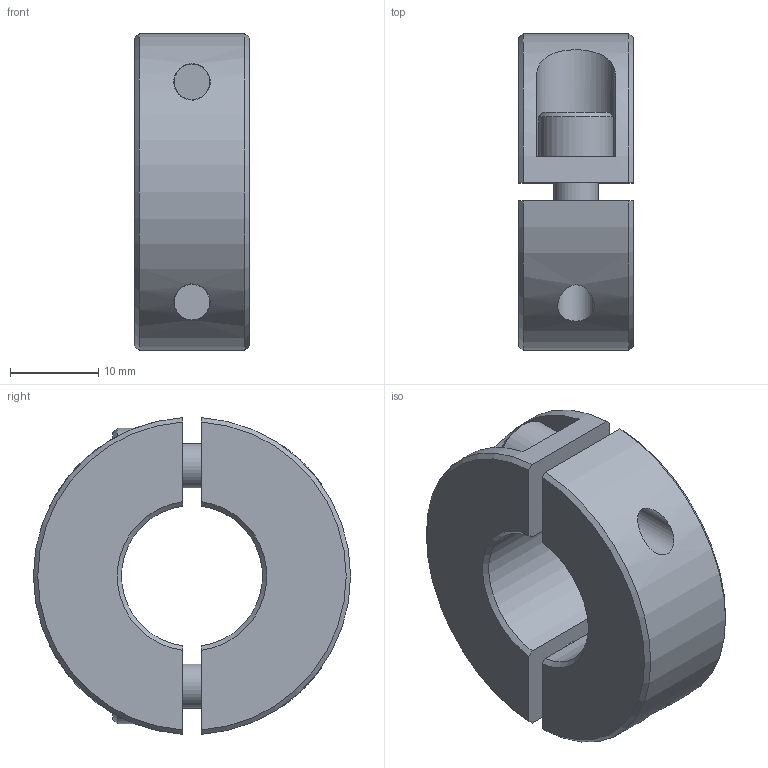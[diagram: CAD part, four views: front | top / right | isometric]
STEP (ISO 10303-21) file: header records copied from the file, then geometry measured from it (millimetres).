
FILE_DESCRIPTION(/* description */ ('STEP AP214'),/* implementation_level */ '2;1');
FILE_NAME(/* name */ 'Split Shaft Collar_ Aluminum GN 707.2-36-B16-AL',/* time_stamp */ '2024-06-10T15:26:34+02:00',/* author */ ('License CC BY-ND 4.0'),/* organization */ ('CADENAS'),/* preprocessor_version */ 'ST-DEVELOPER v19.3',/* originating_system */ 'PARTsolutions',/* authorisation */ ' ');
FILE_SCHEMA (('AUTOMOTIVE_DESIGN {1 0 10303 214 3 1 1}'));
Length unit declared in the file: millimetre
Products named in the file (1): Split Shaft Collar, Aluminum GN 707.2-36-B16-AL
Bounding box: 13 x 36 x 35.94 mm (x, y, z)
Volume: 9286.1 mm3; surface area: 4923.6 mm2
Topology: 1 solids, 1 shells, 72 faces, 168 edges, 108 vertices
Faces by surface type: plane 44, cylinder 14, cone 14
Full cylindrical faces by diameter (mm): 4.134 x2, 5 x2, 5.3 x2, 8.5 x2
Entity records: 2506 total; most frequent: CARTESIAN_POINT 421, DIRECTION 324, ORIENTED_EDGE 292, EDGE_CURVE 146, AXIS2_PLACEMENT_3D 125, VERTEX_POINT 102, FACE_BOUND 100, EDGE_LOOP 98
